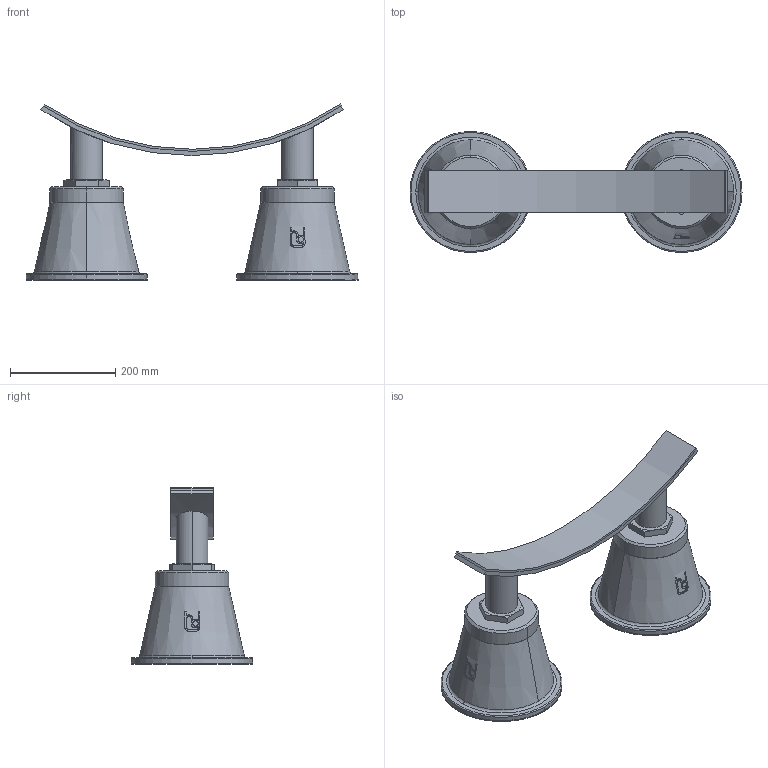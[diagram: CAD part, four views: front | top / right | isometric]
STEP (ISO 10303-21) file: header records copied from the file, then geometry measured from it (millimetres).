
FILE_DESCRIPTION(('STEP AP214'),'1');
FILE_NAME('RSRFN-DUO_DN1000.stp','2018-06-29T13:42:00',(' '),(' '),'Spatial InterOp 3D',' ',' ');
FILE_SCHEMA(('automotive_design'));
Length unit declared in the file: millimetre
Products named in the file (10): 1; 2; 3; 4; 5; 6; 7; 8; 9; 10
Bounding box: 630 x 230 x 334.29 mm (x, y, z)
Volume: 10172292.8 mm3; surface area: 894794.1 mm2
Topology: 10 solids, 12 shells, 210 faces, 506 edges, 330 vertices
Faces by surface type: cylinder 86, plane 82, cone 34, torus 8
Entity records: 9529 total; most frequent: CARTESIAN_POINT 2752, DIRECTION 1034, ORIENTED_EDGE 1012, EDGE_CURVE 506, AXIS2_PLACEMENT_3D 404, VERTEX_POINT 330, EDGE_LOOP 228, LINE 226
